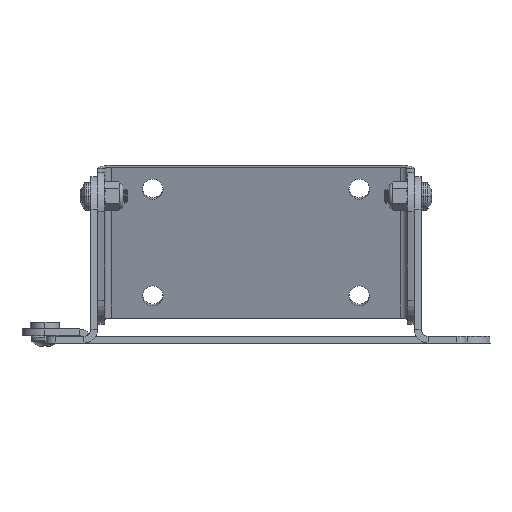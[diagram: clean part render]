
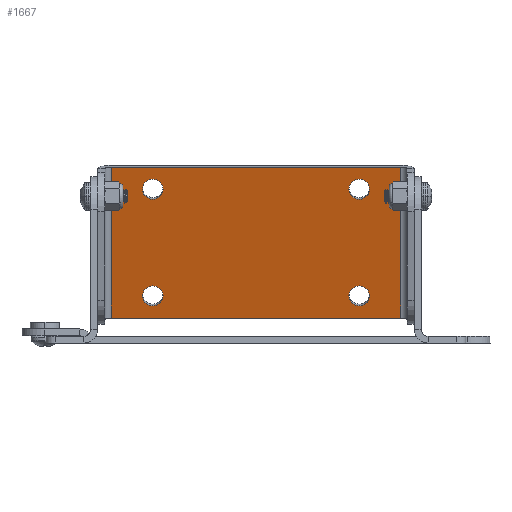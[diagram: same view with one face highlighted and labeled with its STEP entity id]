
A CAD part, front view. The second image highlights one B-rep face of the part: STEP entity #1667.
In plain terms, the highlighted planar face has unit normal (0, -0.968, -0.252) as drawn and (0, 0, -1) by its records, which use the part's own axes.
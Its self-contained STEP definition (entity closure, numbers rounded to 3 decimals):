
#5 = EDGE_CURVE ( 'NONE', #11403, #15142, #7101, .T. ) ;
#74 = EDGE_CURVE ( 'NONE', #5193, #703, #5759, .T. ) ;
#85 = ORIENTED_EDGE ( 'NONE', *, *, #5, .F. ) ;
#162 = EDGE_CURVE ( 'NONE', #703, #8240, #2719, .T. ) ;
#384 = DIRECTION ( 'NONE',  ( 0., 0., -1. ) ) ;
#703 = VERTEX_POINT ( 'NONE', #12478 ) ;
#998 = VECTOR ( 'NONE', #5516, 1000. ) ;
#1243 = VERTEX_POINT ( 'NONE', #13506 ) ;
#1291 = FACE_BOUND ( 'NONE', #3399, .T. ) ;
#1551 = VERTEX_POINT ( 'NONE', #11872 ) ;
#1609 = VERTEX_POINT ( 'NONE', #11300 ) ;
#1667 = ADVANCED_FACE ( 'NONE', ( #11010, #1291, #12737, #8131, #12361 ), #14292, .T. ) ;
#1822 = CIRCLE ( 'NONE', #7849, 2.25 ) ;
#1841 = EDGE_LOOP ( 'NONE', ( #10845, #14153 ) ) ;
#2090 = CARTESIAN_POINT ( 'NONE',  ( -22.5, 12., -1.5 ) ) ;
#2168 = AXIS2_PLACEMENT_3D ( 'NONE', #7711, #15039, #12650 ) ;
#2293 = AXIS2_PLACEMENT_3D ( 'NONE', #13481, #7412, #15768 ) ;
#2397 = EDGE_LOOP ( 'NONE', ( #14544, #5482 ) ) ;
#2469 = CARTESIAN_POINT ( 'NONE',  ( 31.5, 17., -1.5 ) ) ;
#2719 = LINE ( 'NONE', #11474, #9032 ) ;
#3165 = CARTESIAN_POINT ( 'NONE',  ( -31.5, -17., -1.5 ) ) ;
#3203 = AXIS2_PLACEMENT_3D ( 'NONE', #14971, #384, #4120 ) ;
#3213 = DIRECTION ( 'NONE',  ( -1., 0., 0. ) ) ;
#3399 = EDGE_LOOP ( 'NONE', ( #7963, #3934 ) ) ;
#3853 = CARTESIAN_POINT ( 'NONE',  ( -31.5, 17., -1.5 ) ) ;
#3934 = ORIENTED_EDGE ( 'NONE', *, *, #9480, .F. ) ;
#4067 = EDGE_CURVE ( 'NONE', #13053, #1609, #14193, .T. ) ;
#4120 = DIRECTION ( 'NONE',  ( -1., 0., 0. ) ) ;
#4149 = EDGE_CURVE ( 'NONE', #13077, #1243, #12146, .T. ) ;
#4229 = CARTESIAN_POINT ( 'NONE',  ( 20.25, -12., -1.5 ) ) ;
#4468 = ORIENTED_EDGE ( 'NONE', *, *, #11831, .F. ) ;
#5004 = LINE ( 'NONE', #5786, #7673 ) ;
#5193 = VERTEX_POINT ( 'NONE', #3165 ) ;
#5434 = CARTESIAN_POINT ( 'NONE',  ( -20.25, 12., -1.5 ) ) ;
#5482 = ORIENTED_EDGE ( 'NONE', *, *, #13071, .F. ) ;
#5516 = DIRECTION ( 'NONE',  ( 0., -1., 0. ) ) ;
#5543 = DIRECTION ( 'NONE',  ( -1., 0., 0. ) ) ;
#5551 = CIRCLE ( 'NONE', #14710, 2.25 ) ;
#5737 = DIRECTION ( 'NONE',  ( 0., 0., -1. ) ) ;
#5759 = LINE ( 'NONE', #8909, #15144 ) ;
#5786 = CARTESIAN_POINT ( 'NONE',  ( -34.5, 17., -1.5 ) ) ;
#5917 = CARTESIAN_POINT ( 'NONE',  ( 22.5, -12., -1.5 ) ) ;
#6273 = DIRECTION ( 'NONE',  ( 1., 0., 0. ) ) ;
#6417 = CIRCLE ( 'NONE', #2293, 2.25 ) ;
#6754 = CARTESIAN_POINT ( 'NONE',  ( -31.5, 17., -1.5 ) ) ;
#6969 = CARTESIAN_POINT ( 'NONE',  ( 0., 0., -1.5 ) ) ;
#7055 = LINE ( 'NONE', #6754, #998 ) ;
#7101 = CIRCLE ( 'NONE', #3203, 2.25 ) ;
#7140 = DIRECTION ( 'NONE',  ( -1., 0., 0. ) ) ;
#7412 = DIRECTION ( 'NONE',  ( 0., 0., -1. ) ) ;
#7673 = VECTOR ( 'NONE', #15378, 1000. ) ;
#7711 = CARTESIAN_POINT ( 'NONE',  ( 22.5, -12., -1.5 ) ) ;
#7849 = AXIS2_PLACEMENT_3D ( 'NONE', #10485, #8071, #3213 ) ;
#7963 = ORIENTED_EDGE ( 'NONE', *, *, #8248, .F. ) ;
#7981 = CARTESIAN_POINT ( 'NONE',  ( -22.5, -12., -1.5 ) ) ;
#8071 = DIRECTION ( 'NONE',  ( 0., 0., -1. ) ) ;
#8079 = ORIENTED_EDGE ( 'NONE', *, *, #11908, .F. ) ;
#8088 = DIRECTION ( 'NONE',  ( 0., 0., -1. ) ) ;
#8131 = FACE_BOUND ( 'NONE', #1841, .T. ) ;
#8240 = VERTEX_POINT ( 'NONE', #2469 ) ;
#8248 = EDGE_CURVE ( 'NONE', #1551, #11231, #6417, .T. ) ;
#8909 = CARTESIAN_POINT ( 'NONE',  ( -34.5, -17., -1.5 ) ) ;
#8924 = EDGE_LOOP ( 'NONE', ( #85, #4468 ) ) ;
#9032 = VECTOR ( 'NONE', #10402, 1000. ) ;
#9480 = EDGE_CURVE ( 'NONE', #11231, #1551, #12182, .T. ) ;
#9865 = EDGE_LOOP ( 'NONE', ( #10589, #13915, #8079, #10736 ) ) ;
#9890 = CARTESIAN_POINT ( 'NONE',  ( -20.25, -12., -1.5 ) ) ;
#9969 = EDGE_CURVE ( 'NONE', #1609, #13053, #1822, .T. ) ;
#10402 = DIRECTION ( 'NONE',  ( 0., 1., 0. ) ) ;
#10485 = CARTESIAN_POINT ( 'NONE',  ( -22.5, 12., -1.5 ) ) ;
#10589 = ORIENTED_EDGE ( 'NONE', *, *, #74, .F. ) ;
#10633 = DIRECTION ( 'NONE',  ( -1., 0., 0. ) ) ;
#10676 = DIRECTION ( 'NONE',  ( -1., 0., 0. ) ) ;
#10690 = DIRECTION ( 'NONE',  ( 0., 0., -1. ) ) ;
#10736 = ORIENTED_EDGE ( 'NONE', *, *, #162, .F. ) ;
#10845 = ORIENTED_EDGE ( 'NONE', *, *, #9969, .F. ) ;
#11010 = FACE_BOUND ( 'NONE', #2397, .T. ) ;
#11231 = VERTEX_POINT ( 'NONE', #9890 ) ;
#11300 = CARTESIAN_POINT ( 'NONE',  ( -24.75, 12., -1.5 ) ) ;
#11393 = VERTEX_POINT ( 'NONE', #3853 ) ;
#11403 = VERTEX_POINT ( 'NONE', #13424 ) ;
#11474 = CARTESIAN_POINT ( 'NONE',  ( 31.5, -17., -1.5 ) ) ;
#11831 = EDGE_CURVE ( 'NONE', #15142, #11403, #5551, .T. ) ;
#11871 = DIRECTION ( 'NONE',  ( 0., 0., -1. ) ) ;
#11872 = CARTESIAN_POINT ( 'NONE',  ( -24.75, -12., -1.5 ) ) ;
#11908 = EDGE_CURVE ( 'NONE', #8240, #11393, #5004, .T. ) ;
#12146 = CIRCLE ( 'NONE', #12492, 2.25 ) ;
#12182 = CIRCLE ( 'NONE', #12765, 2.25 ) ;
#12361 = FACE_OUTER_BOUND ( 'NONE', #9865, .T. ) ;
#12478 = CARTESIAN_POINT ( 'NONE',  ( 31.5, -17., -1.5 ) ) ;
#12492 = AXIS2_PLACEMENT_3D ( 'NONE', #5917, #13206, #15753 ) ;
#12650 = DIRECTION ( 'NONE',  ( -1., 0., 0. ) ) ;
#12737 = FACE_BOUND ( 'NONE', #8924, .T. ) ;
#12765 = AXIS2_PLACEMENT_3D ( 'NONE', #7981, #8088, #5543 ) ;
#12786 = CARTESIAN_POINT ( 'NONE',  ( 24.75, 12., -1.5 ) ) ;
#13021 = CIRCLE ( 'NONE', #2168, 2.25 ) ;
#13053 = VERTEX_POINT ( 'NONE', #5434 ) ;
#13071 = EDGE_CURVE ( 'NONE', #1243, #13077, #13021, .T. ) ;
#13077 = VERTEX_POINT ( 'NONE', #4229 ) ;
#13206 = DIRECTION ( 'NONE',  ( 0., 0., -1. ) ) ;
#13424 = CARTESIAN_POINT ( 'NONE',  ( 20.25, 12., -1.5 ) ) ;
#13481 = CARTESIAN_POINT ( 'NONE',  ( -22.5, -12., -1.5 ) ) ;
#13506 = CARTESIAN_POINT ( 'NONE',  ( 24.75, -12., -1.5 ) ) ;
#13574 = EDGE_CURVE ( 'NONE', #11393, #5193, #7055, .T. ) ;
#13799 = AXIS2_PLACEMENT_3D ( 'NONE', #2090, #5737, #10633 ) ;
#13915 = ORIENTED_EDGE ( 'NONE', *, *, #13574, .F. ) ;
#14153 = ORIENTED_EDGE ( 'NONE', *, *, #4067, .F. ) ;
#14193 = CIRCLE ( 'NONE', #13799, 2.25 ) ;
#14292 = PLANE ( 'NONE',  #14468 ) ;
#14468 = AXIS2_PLACEMENT_3D ( 'NONE', #6969, #10690, #7140 ) ;
#14544 = ORIENTED_EDGE ( 'NONE', *, *, #4149, .F. ) ;
#14710 = AXIS2_PLACEMENT_3D ( 'NONE', #15422, #11871, #10676 ) ;
#14971 = CARTESIAN_POINT ( 'NONE',  ( 22.5, 12., -1.5 ) ) ;
#15039 = DIRECTION ( 'NONE',  ( 0., 0., -1. ) ) ;
#15142 = VERTEX_POINT ( 'NONE', #12786 ) ;
#15144 = VECTOR ( 'NONE', #6273, 1000. ) ;
#15378 = DIRECTION ( 'NONE',  ( -1., 0., 0. ) ) ;
#15422 = CARTESIAN_POINT ( 'NONE',  ( 22.5, 12., -1.5 ) ) ;
#15753 = DIRECTION ( 'NONE',  ( -1., 0., 0. ) ) ;
#15768 = DIRECTION ( 'NONE',  ( -1., 0., 0. ) ) ;
